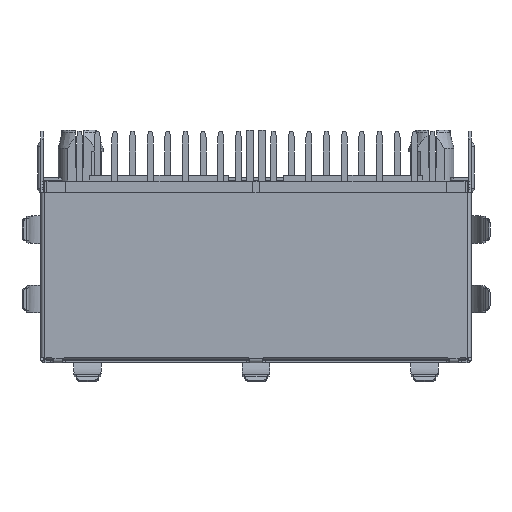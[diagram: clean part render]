
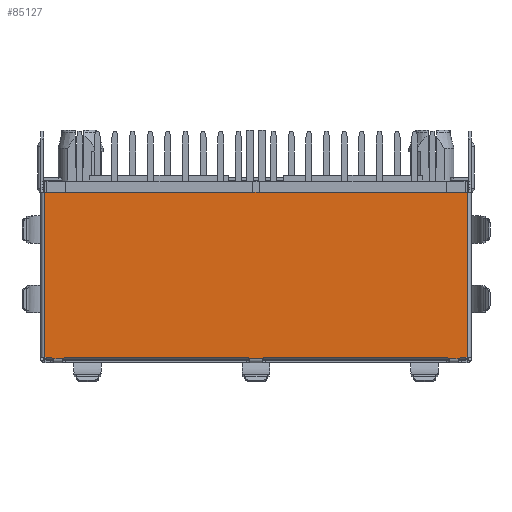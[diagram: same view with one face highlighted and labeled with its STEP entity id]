
A CAD part, front view. The second image highlights one B-rep face of the part: STEP entity #85127.
In plain terms, the highlighted planar face has unit normal (0, -1, 0) as drawn and (0, 0, 1) by its records, which use the part's own axes.
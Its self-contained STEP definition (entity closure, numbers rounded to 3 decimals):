
#74324=DIRECTION('',(1.,0.,0.));
#74325=VECTOR('',#74324,0.754);
#74326=CARTESIAN_POINT('',(30.728,1.655,5.8));
#74327=LINE('',#74326,#74325);
#74402=CARTESIAN_POINT('',(16.378,1.655,5.8));
#74404=DIRECTION('',(1.,0.,0.));
#74405=VECTOR('',#74404,0.954);
#74406=CARTESIAN_POINT('',(16.378,1.655,5.8));
#74407=LINE('',#74406,#74405);
#74482=CARTESIAN_POINT('',(2.228,1.655,5.8));
#74484=DIRECTION('',(1.,0.,0.));
#74485=VECTOR('',#74484,0.754);
#74486=CARTESIAN_POINT('',(2.228,1.655,5.8));
#74487=LINE('',#74486,#74485);
#74603=DIRECTION('',(-1.,0.,0.));
#74604=VECTOR('',#74603,30.4);
#74605=CARTESIAN_POINT('',(32.055,13.655,5.8));
#74606=LINE('',#74605,#74604);
#74642=DIRECTION('',(1.,0.,0.));
#74643=VECTOR('',#74642,0.4);
#74644=CARTESIAN_POINT('',(31.655,1.755,5.8));
#74645=LINE('',#74644,#74643);
#74726=DIRECTION('',(0.,1.,0.));
#74727=VECTOR('',#74726,11.9);
#74728=CARTESIAN_POINT('',(32.055,1.755,5.8));
#74729=LINE('',#74728,#74727);
#74734=CARTESIAN_POINT('',(31.655,1.555,5.8));
#74735=DIRECTION('',(0.,0.,1.));
#74736=DIRECTION('',(0.,1.,0.));
#74737=AXIS2_PLACEMENT_3D('',#74734,#74735,#74736);
#74739=CARTESIAN_POINT('',(30.555,1.555,5.8));
#74740=DIRECTION('',(0.,0.,1.));
#74741=DIRECTION('',(0.866,0.5,0.));
#74742=AXIS2_PLACEMENT_3D('',#74739,#74740,#74741);
#74744=CARTESIAN_POINT('',(17.505,1.555,5.8));
#74745=DIRECTION('',(0.,0.,1.));
#74746=DIRECTION('',(0.,1.,0.));
#74747=AXIS2_PLACEMENT_3D('',#74744,#74745,#74746);
#74749=CARTESIAN_POINT('',(16.205,1.555,5.8));
#74750=DIRECTION('',(0.,0.,1.));
#74751=DIRECTION('',(0.866,0.5,0.));
#74752=AXIS2_PLACEMENT_3D('',#74749,#74750,#74751);
#74754=CARTESIAN_POINT('',(3.155,1.555,5.8));
#74755=DIRECTION('',(0.,0.,1.));
#74756=DIRECTION('',(0.,1.,0.));
#74757=AXIS2_PLACEMENT_3D('',#74754,#74755,#74756);
#74759=CARTESIAN_POINT('',(2.055,1.555,5.8));
#74760=DIRECTION('',(0.,0.,1.));
#74761=DIRECTION('',(0.866,0.5,0.));
#74762=AXIS2_PLACEMENT_3D('',#74759,#74760,#74761);
#74801=CARTESIAN_POINT('',(30.728,1.655,5.8));
#74839=DIRECTION('',(1.,0.,0.));
#74840=VECTOR('',#74839,13.05);
#74841=CARTESIAN_POINT('',(17.505,1.755,5.8));
#74842=LINE('',#74841,#74840);
#74890=DIRECTION('',(1.,0.,0.));
#74891=VECTOR('',#74890,13.05);
#74892=CARTESIAN_POINT('',(3.155,1.755,5.8));
#74893=LINE('',#74892,#74891);
#74939=DIRECTION('',(1.,0.,0.));
#74940=VECTOR('',#74939,0.4);
#74941=CARTESIAN_POINT('',(1.655,1.755,5.8));
#74942=LINE('',#74941,#74940);
#75114=DIRECTION('',(0.,-1.,0.));
#75115=VECTOR('',#75114,11.9);
#75116=CARTESIAN_POINT('',(1.655,13.655,5.8));
#75117=LINE('',#75116,#75115);
#82271=VERTEX_POINT('',#74801);
#82272=CARTESIAN_POINT('',(31.482,1.655,5.8));
#82273=VERTEX_POINT('',#82272);
#82284=VERTEX_POINT('',#74402);
#82285=CARTESIAN_POINT('',(17.332,1.655,5.8));
#82286=VERTEX_POINT('',#82285);
#82297=VERTEX_POINT('',#74482);
#82298=CARTESIAN_POINT('',(2.982,1.655,5.8));
#82299=VERTEX_POINT('',#82298);
#83982=CARTESIAN_POINT('',(1.655,13.655,5.8));
#83984=VERTEX_POINT('',#83982);
#84000=CARTESIAN_POINT('',(32.055,13.655,5.8));
#84001=VERTEX_POINT('',#84000);
#84002=CARTESIAN_POINT('',(32.055,1.755,5.8));
#84003=VERTEX_POINT('',#84002);
#84004=CARTESIAN_POINT('',(31.655,1.755,5.8));
#84005=VERTEX_POINT('',#84004);
#84006=CARTESIAN_POINT('',(30.555,1.755,5.8));
#84007=VERTEX_POINT('',#84006);
#84008=CARTESIAN_POINT('',(17.505,1.755,5.8));
#84009=VERTEX_POINT('',#84008);
#84010=CARTESIAN_POINT('',(16.205,1.755,5.8));
#84011=VERTEX_POINT('',#84010);
#84012=CARTESIAN_POINT('',(3.155,1.755,5.8));
#84013=VERTEX_POINT('',#84012);
#84014=CARTESIAN_POINT('',(2.055,1.755,5.8));
#84015=VERTEX_POINT('',#84014);
#84016=CARTESIAN_POINT('',(1.655,1.755,5.8));
#84017=VERTEX_POINT('',#84016);
#85094=CARTESIAN_POINT('',(16.855,7.655,5.8));
#85095=DIRECTION('',(0.,0.,1.));
#85096=DIRECTION('',(1.,0.,0.));
#85097=AXIS2_PLACEMENT_3D('',#85094,#85095,#85096);
#85098=PLANE('',#85097);
#85099=ORIENTED_EDGE('',*,*,#84976,.F.);
#85100=ORIENTED_EDGE('',*,*,#85087,.F.);
#85101=ORIENTED_EDGE('',*,*,#85018,.F.);
#85103=ORIENTED_EDGE('',*,*,#85102,.T.);
#85104=ORIENTED_EDGE('',*,*,#84704,.F.);
#85106=ORIENTED_EDGE('',*,*,#85105,.T.);
#85108=ORIENTED_EDGE('',*,*,#85107,.F.);
#85110=ORIENTED_EDGE('',*,*,#85109,.T.);
#85111=ORIENTED_EDGE('',*,*,#84777,.F.);
#85113=ORIENTED_EDGE('',*,*,#85112,.T.);
#85115=ORIENTED_EDGE('',*,*,#85114,.F.);
#85117=ORIENTED_EDGE('',*,*,#85116,.T.);
#85118=ORIENTED_EDGE('',*,*,#84850,.F.);
#85120=ORIENTED_EDGE('',*,*,#85119,.T.);
#85122=ORIENTED_EDGE('',*,*,#85121,.F.);
#85124=ORIENTED_EDGE('',*,*,#85123,.F.);
#85125=EDGE_LOOP('',(#85099,#85100,#85101,#85103,#85104,#85106,#85108,#85110,
#85111,#85113,#85115,#85117,#85118,#85120,#85122,#85124));
#85126=FACE_OUTER_BOUND('',#85125,.F.);
#85127=ADVANCED_FACE('',(#85126),#85098,.T.);
#74738=CIRCLE('',#74737,0.2);
#74743=CIRCLE('',#74742,0.2);
#74748=CIRCLE('',#74747,0.2);
#74753=CIRCLE('',#74752,0.2);
#74758=CIRCLE('',#74757,0.2);
#74763=CIRCLE('',#74762,0.2);
#84704=EDGE_CURVE('',#82271,#82273,#74327,.T.);
#84777=EDGE_CURVE('',#82284,#82286,#74407,.T.);
#84850=EDGE_CURVE('',#82297,#82299,#74487,.T.);
#84976=EDGE_CURVE('',#84001,#83984,#74606,.T.);
#85018=EDGE_CURVE('',#84005,#84003,#74645,.T.);
#85087=EDGE_CURVE('',#84003,#84001,#74729,.T.);
#85102=EDGE_CURVE('',#84005,#82273,#74738,.T.);
#85105=EDGE_CURVE('',#82271,#84007,#74743,.T.);
#85107=EDGE_CURVE('',#84009,#84007,#74842,.T.);
#85109=EDGE_CURVE('',#84009,#82286,#74748,.T.);
#85112=EDGE_CURVE('',#82284,#84011,#74753,.T.);
#85114=EDGE_CURVE('',#84013,#84011,#74893,.T.);
#85116=EDGE_CURVE('',#84013,#82299,#74758,.T.);
#85119=EDGE_CURVE('',#82297,#84015,#74763,.T.);
#85121=EDGE_CURVE('',#84017,#84015,#74942,.T.);
#85123=EDGE_CURVE('',#83984,#84017,#75117,.T.);
